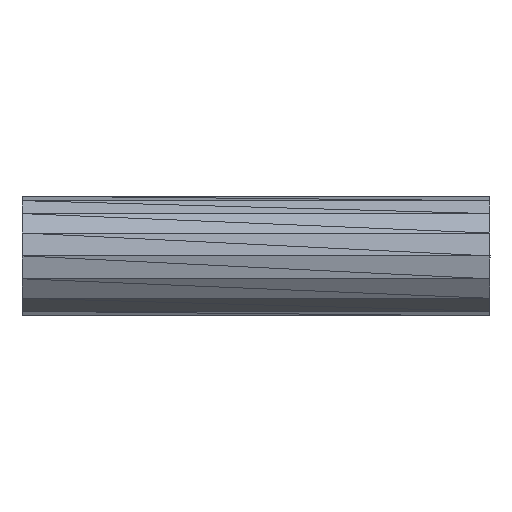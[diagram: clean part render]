
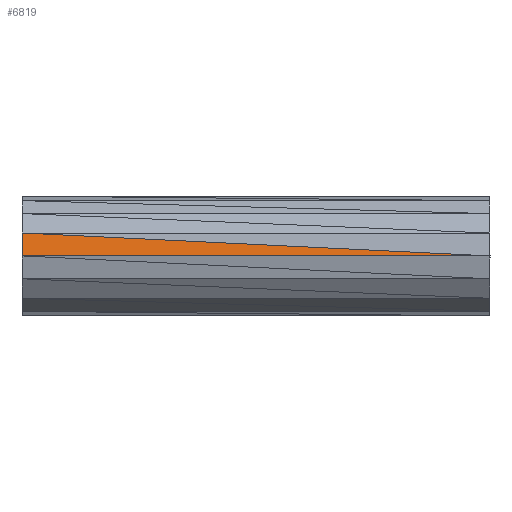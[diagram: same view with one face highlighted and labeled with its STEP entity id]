
A CAD part, top view. The second image highlights one B-rep face of the part: STEP entity #6819.
In plain terms, the highlighted planar face has unit normal (0, 0.195, 0.981).
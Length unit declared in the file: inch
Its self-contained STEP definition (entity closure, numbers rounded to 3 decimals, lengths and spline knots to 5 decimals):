
#6451=CARTESIAN_POINT('',(0.0625,-0.00002,0.11599));
#6452=VERTEX_POINT('',#6451);
#6630=CARTESIAN_POINT('',(-0.06248,0.0061,0.1148));
#6631=VERTEX_POINT('',#6630);
#6632=CARTESIAN_POINT('',(-0.0625,0.0061,0.1148));
#6633=DIRECTION('',(0.999,-0.049,0.01));
#6634=VECTOR('',#6633,0.12516);
#6635=LINE('',#6632,#6634);
#6636=EDGE_CURVE('',#6631,#6452,#6635,.T.);
#6786=CARTESIAN_POINT('',(-0.06248,-0.00002,0.11601));
#6787=VERTEX_POINT('',#6786);
#6795=CARTESIAN_POINT('',(0.0625,-0.00002,0.11599));
#6796=DIRECTION('',(-1.,0.,0.));
#6797=VECTOR('',#6796,0.125);
#6798=LINE('',#6795,#6797);
#6799=EDGE_CURVE('',#6452,#6787,#6798,.T.);
#6804=CARTESIAN_POINT('',(0.0625,-0.00002,0.11599));
#6805=DIRECTION('',(0.,0.195,0.981));
#6806=DIRECTION('',(1.,0.,0.));
#6807=AXIS2_PLACEMENT_3D('',#6804,#6805,#6806);
#6808=PLANE('',#6807);
#6809=ORIENTED_EDGE('',*,*,#6636,.F.);
#6810=CARTESIAN_POINT('',(-0.0625,0.0061,0.1148));
#6811=DIRECTION('',(0.,-0.981,0.195));
#6812=VECTOR('',#6811,0.00624);
#6813=LINE('',#6810,#6812);
#6814=EDGE_CURVE('',#6631,#6787,#6813,.T.);
#6815=ORIENTED_EDGE('',*,*,#6814,.T.);
#6816=ORIENTED_EDGE('',*,*,#6799,.F.);
#6817=EDGE_LOOP('',(#6809,#6815,#6816));
#6818=FACE_BOUND('',#6817,.T.);
#6819=ADVANCED_FACE('',(#6818),#6808,.T.);
